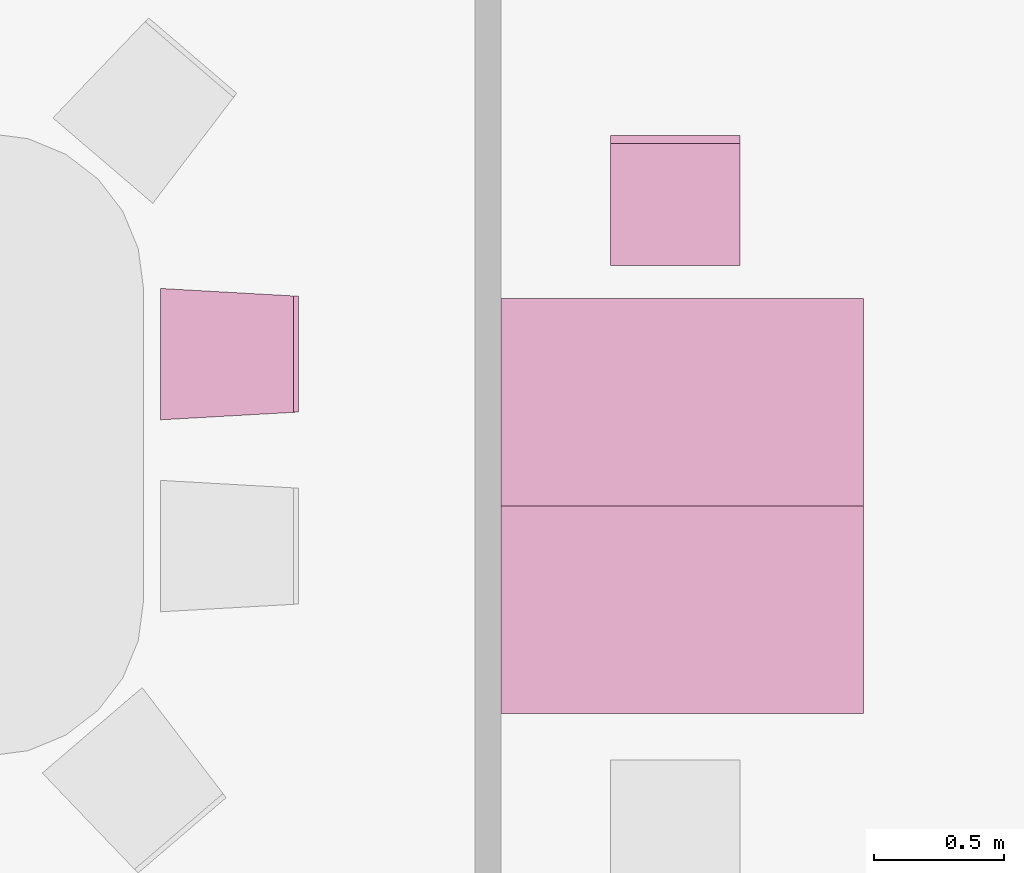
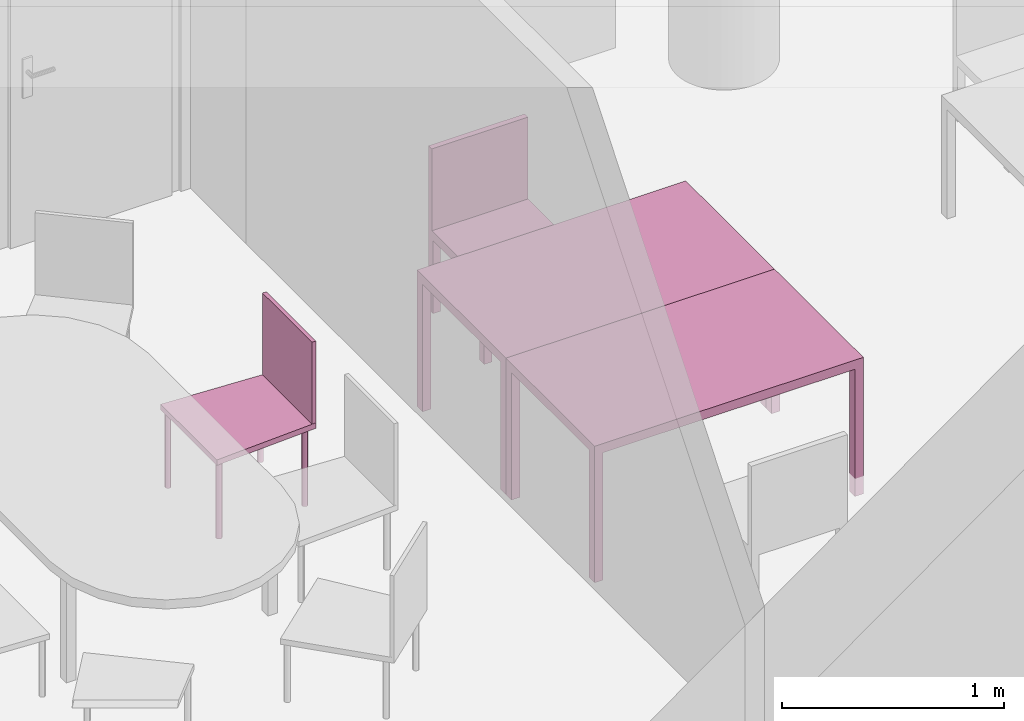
"""IFC4 building model written with IfcOpenShell, lengths in metres."""

from ifc_helpers import new_model, entity, si_unit, converted_unit, derived_unit, frame, origin, place, context, subcontext, project, spatial, faceted_brep, element, save


model = new_model("IFC4")

# Units and contexts
model_context = context("Model", 3, precision=1e-05, world=origin())
body_context = subcontext(model_context, "Body", "Model", "MODEL_VIEW")
ifc_project = project(units=[si_unit("LENGTHUNIT", "METRE"), si_unit("AREAUNIT", "SQUARE_METRE"), si_unit("VOLUMEUNIT", "CUBIC_METRE"), si_unit("MASSUNIT", "GRAM", prefix="KILO"), converted_unit("PLANEANGLEUNIT", "DEGREE", entity("IfcPlaneAngleMeasure", 0.0174532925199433), si_unit("PLANEANGLEUNIT", "RADIAN"), dimensions=[0, 0, 0, 0, 0, 0, 0]), derived_unit("THERMALTRANSMITTANCEUNIT", [(si_unit("POWERUNIT", "WATT"), 1), (si_unit("THERMODYNAMICTEMPERATUREUNIT", "KELVIN"), -1), (si_unit("LENGTHUNIT", "METRE"), -2)]), derived_unit("VOLUMETRICFLOWRATEUNIT", [(si_unit("LENGTHUNIT", "METRE"), 3), (converted_unit("TIMEUNIT", "hour", entity("IfcTimeMeasure", 3600.0), si_unit("TIMEUNIT", "SECOND"), dimensions=[0, 0, 1, 0, 0, 0, 0]), -1), (si_unit("LENGTHUNIT", "METRE"), -1)])], contexts=[model_context])

# Building, storeys
building_placement = place(None, origin())
building = spatial("IfcBuilding", under=ifc_project, at=building_placement, Name="HABITATGE PLURIFAMILIAR", CompositionType="ELEMENT")
storey_1_placement = place(building_placement, frame((0.0, 0.0, 9.26)))
storey_1 = spatial("IfcBuildingStorey", under=building, at=storey_1_placement, Name="PLANTA SEGONA", CompositionType="ELEMENT", Elevation=9.26)
storey_2_placement = place(storey_1_placement, frame((0.0, 0.0, 6.25)))
storey_2 = spatial("IfcBuildingStorey", under=storey_1, at=storey_2_placement, Name="NOU", CompositionType="PARTIAL")

# Furniture
furniture_1_placement = place(storey_2_placement, frame((418.499795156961, 14.6473715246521, -6.3499999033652)))
element("IfcFurniture", 1, at=furniture_1_placement, inside=storey_2, Name="Taula 140X80_P2", context=body_context, shape_type="Brep", body=[
    faceted_brep([(0.04375, 0.750069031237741, 0.0), (0.04375, 0.800069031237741, 0.0), (0.0, 0.800069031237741, 0.0), (0.0, 0.750069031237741, 0.0), (0.04375, 0.800069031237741, 0.7), (0.04375, 0.750069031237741, 0.7), (0.0, 0.750069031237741, 0.7), (0.0, 0.800069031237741, 0.7)], [[[0, 1, 2, 3]], [[4, 5, 6, 7]], [[1, 0, 5, 4]], [[2, 1, 4, 7]], [[3, 2, 7, 6]], [[0, 3, 6, 5]]], orient=[[False], [False], [False], [False], [False], [False]]),
    faceted_brep([(0.04375, 0.0, 0.0), (0.04375, 0.05, 0.0), (0.0, 0.05, 0.0), (0.0, 0.0, 0.0), (0.04375, 0.05, 0.7), (0.04375, 0.0, 0.7), (0.0, 0.0, 0.7), (0.0, 0.05, 0.7)], [[[0, 1, 2, 3]], [[4, 5, 6, 7]], [[1, 0, 5, 4]], [[2, 1, 4, 7]], [[3, 2, 7, 6]], [[0, 3, 6, 5]]], orient=[[False], [False], [False], [False], [False], [False]]),
    faceted_brep([(1.39732768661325, 0.0, 0.7), (1.39732768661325, 0.800069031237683, 0.7), (0.0, 0.800069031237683, 0.7), (0.0, 0.0, 0.7), (1.39732768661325, 0.800069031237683, 0.75), (1.39732768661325, 0.0, 0.75), (0.0, 0.0, 0.75), (0.0, 0.800069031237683, 0.75)], [[[0, 1, 2, 3]], [[4, 5, 6, 7]], [[1, 0, 5, 4]], [[2, 1, 4, 7]], [[3, 2, 7, 6]], [[0, 3, 6, 5]]], orient=[[False], [False], [False], [False], [False], [False]]),
    faceted_brep([(1.39732768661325, 0.750069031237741, 0.0), (1.39732768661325, 0.800069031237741, 0.0), (1.35357768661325, 0.800069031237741, 0.0), (1.35357768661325, 0.750069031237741, 0.0), (1.39732768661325, 0.800069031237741, 0.7), (1.39732768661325, 0.750069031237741, 0.7), (1.35357768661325, 0.750069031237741, 0.7), (1.35357768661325, 0.800069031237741, 0.7)], [[[0, 1, 2, 3]], [[4, 5, 6, 7]], [[1, 0, 5, 4]], [[2, 1, 4, 7]], [[3, 2, 7, 6]], [[0, 3, 6, 5]]], orient=[[False], [False], [False], [False], [False], [False]]),
    faceted_brep([(1.39732768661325, 0.0, 0.0), (1.39732768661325, 0.05, 0.0), (1.35357768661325, 0.05, 0.0), (1.35357768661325, 0.0, 0.0), (1.39732768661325, 0.05, 0.7), (1.39732768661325, 0.0, 0.7), (1.35357768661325, 0.0, 0.7), (1.35357768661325, 0.05, 0.7)], [[[0, 1, 2, 3]], [[4, 5, 6, 7]], [[1, 0, 5, 4]], [[2, 1, 4, 7]], [[3, 2, 7, 6]], [[0, 3, 6, 5]]], orient=[[False], [False], [False], [False], [False], [False]]),
])
furniture_2_placement = place(storey_2_placement, frame((418.499795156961, 15.4474405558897, -6.3499999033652)))
element("IfcFurniture", 2, at=furniture_2_placement, inside=storey_2, Name="Taula 140X80_P2", context=body_context, shape_type="Brep", body=[
    faceted_brep([(0.04375, 0.05, 0.0), (0.0, 0.05, 0.0), (0.0, 0.0, 0.0), (0.04375, 0.0, 0.0), (0.04375, 0.0, 0.7), (0.0, 0.0, 0.7), (0.0, 0.05, 0.7), (0.04375, 0.05, 0.7)], [[[0, 1, 2, 3]], [[4, 5, 6, 7]], [[3, 4, 7, 0]], [[2, 5, 4, 3]], [[1, 6, 5, 2]], [[0, 7, 6, 1]]], orient=[[False], [False], [False], [False], [False], [False]]),
    faceted_brep([(0.04375, 0.800069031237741, 0.0), (0.0, 0.800069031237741, 0.0), (0.0, 0.750069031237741, 0.0), (0.04375, 0.750069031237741, 0.0), (0.04375, 0.750069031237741, 0.7), (0.0, 0.750069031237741, 0.7), (0.0, 0.800069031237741, 0.7), (0.04375, 0.800069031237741, 0.7)], [[[0, 1, 2, 3]], [[4, 5, 6, 7]], [[3, 4, 7, 0]], [[2, 5, 4, 3]], [[1, 6, 5, 2]], [[0, 7, 6, 1]]], orient=[[False], [False], [False], [False], [False], [False]]),
    faceted_brep([(1.39732768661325, 0.800069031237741, 0.7), (0.0, 0.800069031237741, 0.7), (0.0, 0.0, 0.7), (1.39732768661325, 0.0, 0.7), (1.39732768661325, 0.0, 0.75), (0.0, 0.0, 0.75), (0.0, 0.800069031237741, 0.75), (1.39732768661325, 0.800069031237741, 0.75)], [[[0, 1, 2, 3]], [[4, 5, 6, 7]], [[3, 4, 7, 0]], [[2, 5, 4, 3]], [[1, 6, 5, 2]], [[0, 7, 6, 1]]], orient=[[False], [False], [False], [False], [False], [False]]),
    faceted_brep([(1.39732768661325, 0.05, 0.0), (1.35357768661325, 0.05, 0.0), (1.35357768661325, 0.0, 0.0), (1.39732768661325, 0.0, 0.0), (1.39732768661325, 0.0, 0.7), (1.35357768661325, 0.0, 0.7), (1.35357768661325, 0.05, 0.7), (1.39732768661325, 0.05, 0.7)], [[[0, 1, 2, 3]], [[4, 5, 6, 7]], [[3, 4, 7, 0]], [[2, 5, 4, 3]], [[1, 6, 5, 2]], [[0, 7, 6, 1]]], orient=[[False], [False], [False], [False], [False], [False]]),
    faceted_brep([(1.39732768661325, 0.800069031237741, 0.0), (1.35357768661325, 0.800069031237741, 0.0), (1.35357768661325, 0.750069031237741, 0.0), (1.39732768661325, 0.750069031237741, 0.0), (1.39732768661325, 0.750069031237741, 0.7), (1.35357768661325, 0.750069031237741, 0.7), (1.35357768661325, 0.800069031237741, 0.7), (1.39732768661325, 0.800069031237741, 0.7)], [[[0, 1, 2, 3]], [[4, 5, 6, 7]], [[3, 4, 7, 0]], [[2, 5, 4, 3]], [[1, 6, 5, 2]], [[0, 7, 6, 1]]], orient=[[False], [False], [False], [False], [False], [False]]),
])
furniture_3_placement = place(storey_2_placement, frame((418.921781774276, 16.37474427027, -6.34505686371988)))
element("IfcFurniture", 3, at=furniture_3_placement, inside=storey_2, Name="Cadira d'Oficina_P2", context=body_context, shape_type="Brep", body=[
    faceted_brep([(0.5, 0.0, 0.4), (0.5, 0.50000000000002, 0.4), (0.0, 0.500000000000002, 0.4), (0.0, 0.0, 0.4), (0.5, 0.50000000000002, 0.45), (0.5, 0.0, 0.45), (0.0, 0.0, 0.45), (0.0, 0.500000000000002, 0.45)], [[[0, 1, 2, 3]], [[4, 5, 6, 7]], [[1, 0, 5, 4]], [[2, 1, 4, 7]], [[3, 2, 7, 6]], [[0, 3, 6, 5]]], orient=[[False], [False], [False], [False], [False], [False]]),
    faceted_brep([(0.0, 0.460000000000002, 0.0), (0.04, 0.460000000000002, 0.0), (0.04, 0.500000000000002, 0.0), (0.0, 0.500000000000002, 0.0), (0.04, 0.460000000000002, 0.4), (0.0, 0.460000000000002, 0.4), (0.0, 0.500000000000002, 0.4), (0.04, 0.500000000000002, 0.4)], [[[0, 1, 2, 3]], [[4, 5, 6, 7]], [[1, 0, 5, 4]], [[2, 1, 4, 7]], [[3, 2, 7, 6]], [[0, 3, 6, 5]]], orient=[[False], [False], [False], [False], [False], [False]]),
    faceted_brep([(0.0, 0.0, 0.0), (0.04, 0.0, 0.0), (0.04, 0.0400000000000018, 0.0), (0.0, 0.0400000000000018, 0.0), (0.04, 0.0, 0.4), (0.0, 0.0, 0.4), (0.0, 0.0400000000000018, 0.4), (0.04, 0.0400000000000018, 0.4)], [[[0, 1, 2, 3]], [[4, 5, 6, 7]], [[1, 0, 5, 4]], [[2, 1, 4, 7]], [[3, 2, 7, 6]], [[0, 3, 6, 5]]], orient=[[False], [False], [False], [False], [False], [False]]),
    faceted_brep([(0.46, 0.460000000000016, 0.0), (0.5, 0.46000000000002, 0.0), (0.5, 0.50000000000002, 0.0), (0.46, 0.500000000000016, 0.0), (0.5, 0.46000000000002, 0.4), (0.46, 0.460000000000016, 0.4), (0.46, 0.500000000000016, 0.4), (0.5, 0.50000000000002, 0.4)], [[[0, 1, 2, 3]], [[4, 5, 6, 7]], [[1, 0, 5, 4]], [[2, 1, 4, 7]], [[3, 2, 7, 6]], [[0, 3, 6, 5]]], orient=[[False], [False], [False], [False], [False], [False]]),
    faceted_brep([(0.46, 0.0, 0.0), (0.5, 0.0, 0.0), (0.5, 0.04000000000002, 0.0), (0.46, 0.0400000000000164, 0.0), (0.5, 0.0, 0.4), (0.46, 0.0, 0.4), (0.46, 0.0400000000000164, 0.4), (0.5, 0.04000000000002, 0.4)], [[[0, 1, 2, 3]], [[4, 5, 6, 7]], [[1, 0, 5, 4]], [[2, 1, 4, 7]], [[3, 2, 7, 6]], [[0, 3, 6, 5]]], orient=[[False], [False], [False], [False], [False], [False]]),
    faceted_brep([(0.0, 0.470000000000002, 0.45), (0.5, 0.47000000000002, 0.45), (0.5, 0.50000000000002, 0.45), (0.0, 0.500000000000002, 0.45), (0.5, 0.47000000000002, 0.9), (0.0, 0.470000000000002, 0.9), (0.0, 0.500000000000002, 0.9), (0.5, 0.50000000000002, 0.9)], [[[0, 1, 2, 3]], [[4, 5, 6, 7]], [[1, 0, 5, 4]], [[2, 1, 4, 7]], [[3, 2, 7, 6]], [[0, 3, 6, 5]]], orient=[[False], [False], [False], [False], [False], [False]]),
])
furniture_4_placement = place(storey_2_placement, frame((417.187569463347, 15.778830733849, -6.35033802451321)))
element("IfcFurniture", 4, at=furniture_4_placement, inside=storey_2, Name="Cadira confident_P2", context=body_context, shape_type="Brep", body=[
    faceted_brep([(0.0250973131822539, 0.0391638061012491, 0.0), (0.0225033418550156, 0.03893686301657, 0.0), (0.0199881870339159, 0.0382629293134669, 0.0), (0.0176282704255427, 0.0371624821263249, 0.0), (0.0154952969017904, 0.0356689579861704, 0.0), (0.0136540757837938, 0.0338277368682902, 0.0), (0.0121605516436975, 0.0316947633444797, 0.0), (0.0110601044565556, 0.0293348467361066, 0.0), (0.0103861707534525, 0.0268196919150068, 0.0), (0.0101592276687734, 0.0242257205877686, 0.0), (0.0103861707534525, 0.0216317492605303, 0.0), (0.0110601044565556, 0.0191165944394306, 0.0), (0.0121605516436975, 0.0167566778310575, 0.0), (0.0136540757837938, 0.014623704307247, 0.0), (0.0154952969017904, 0.0127824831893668, 0.0), (0.0176282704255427, 0.0112889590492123, 0.0), (0.0199881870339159, 0.0101885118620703, 0.0), (0.0225033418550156, 0.0095145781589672, 0.0), (0.0250973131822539, 0.00928763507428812, 0.0), (0.0276912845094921, 0.0095145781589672, 0.0), (0.0302064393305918, 0.0101885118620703, 0.0), (0.032566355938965, 0.0112889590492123, 0.0), (0.0346993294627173, 0.0127824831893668, 0.0), (0.0365405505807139, 0.014623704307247, 0.0), (0.0380340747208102, 0.0167566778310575, 0.0), (0.0391345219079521, 0.0191165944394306, 0.0), (0.0398084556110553, 0.0216317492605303, 0.0), (0.0400353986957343, 0.0242257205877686, 0.0), (0.0398084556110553, 0.0268196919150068, 0.0), (0.0391345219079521, 0.0293348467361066, 0.0), (0.0380340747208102, 0.0316947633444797, 0.0), (0.0365405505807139, 0.0338277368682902, 0.0), (0.0346993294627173, 0.0356689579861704, 0.0), (0.032566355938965, 0.0371624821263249, 0.0), (0.0302064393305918, 0.0382629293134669, 0.0), (0.0276912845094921, 0.03893686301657, 0.0), (0.0250973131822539, 0.0391638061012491, 0.448281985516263), (0.0276912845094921, 0.03893686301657, 0.448281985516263), (0.0302064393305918, 0.0382629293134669, 0.448281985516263), (0.032566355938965, 0.0371624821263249, 0.448281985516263), (0.0346993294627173, 0.0356689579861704, 0.448281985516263), (0.0365405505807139, 0.0338277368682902, 0.448281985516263), (0.0380340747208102, 0.0316947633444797, 0.448281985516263), (0.0391345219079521, 0.0293348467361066, 0.448281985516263), (0.0398084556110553, 0.0268196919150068, 0.448281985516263), (0.0400353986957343, 0.0242257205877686, 0.448281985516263), (0.0398084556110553, 0.0216317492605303, 0.448281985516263), (0.0391345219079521, 0.0191165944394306, 0.448281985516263), (0.0380340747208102, 0.0167566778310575, 0.448281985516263), (0.0365405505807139, 0.014623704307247, 0.448281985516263), (0.0346993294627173, 0.0127824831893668, 0.448281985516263), (0.032566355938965, 0.0112889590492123, 0.448281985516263), (0.0302064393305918, 0.0101885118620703, 0.448281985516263), (0.0276912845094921, 0.0095145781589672, 0.448281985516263), (0.0250973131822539, 0.00928763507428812, 0.448281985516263), (0.0225033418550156, 0.0095145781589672, 0.448281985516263), (0.0199881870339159, 0.0101885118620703, 0.448281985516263), (0.0176282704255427, 0.0112889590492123, 0.448281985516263), (0.0154952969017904, 0.0127824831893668, 0.448281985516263), (0.0136540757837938, 0.014623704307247, 0.448281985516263), (0.0121605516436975, 0.0167566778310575, 0.448281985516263), (0.0110601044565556, 0.0191165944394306, 0.448281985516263), (0.0103861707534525, 0.0216317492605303, 0.448281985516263), (0.0101592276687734, 0.0242257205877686, 0.448281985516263), (0.0103861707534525, 0.0268196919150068, 0.448281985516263), (0.0110601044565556, 0.0293348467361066, 0.448281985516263), (0.0121605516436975, 0.0316947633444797, 0.448281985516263), (0.0136540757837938, 0.0338277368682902, 0.448281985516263), (0.0154952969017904, 0.0356689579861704, 0.448281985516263), (0.0176282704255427, 0.0371624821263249, 0.448281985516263), (0.0199881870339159, 0.0382629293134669, 0.448281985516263), (0.0225033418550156, 0.03893686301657, 0.448281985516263)], [[[0, 1, 2, 3, 4, 5, 6, 7, 8, 9, 10, 11, 12, 13, 14, 15, 16, 17, 18, 19, 20, 21, 22, 23, 24, 25, 26, 27, 28, 29, 30, 31, 32, 33, 34, 35]], [[36, 37, 38, 39, 40, 41, 42, 43, 44, 45, 46, 47, 48, 49, 50, 51, 52, 53, 54, 55, 56, 57, 58, 59, 60, 61, 62, 63, 64, 65, 66, 67, 68, 69, 70, 71]], [[35, 37, 36, 0]], [[34, 38, 37, 35]], [[33, 39, 38, 34]], [[32, 40, 39, 33]], [[31, 41, 40, 32]], [[30, 42, 41, 31]], [[29, 43, 42, 30]], [[28, 44, 43, 29]], [[27, 45, 44, 28]], [[26, 46, 45, 27]], [[25, 47, 46, 26]], [[24, 48, 47, 25]], [[23, 49, 48, 24]], [[22, 50, 49, 23]], [[21, 51, 50, 22]], [[20, 52, 51, 21]], [[19, 53, 52, 20]], [[18, 54, 53, 19]], [[17, 55, 54, 18]], [[16, 56, 55, 17]], [[15, 57, 56, 16]], [[14, 58, 57, 15]], [[13, 59, 58, 14]], [[12, 60, 59, 13]], [[11, 61, 60, 12]], [[10, 62, 61, 11]], [[9, 63, 62, 10]], [[8, 64, 63, 9]], [[7, 65, 64, 8]], [[6, 66, 65, 7]], [[5, 67, 66, 6]], [[4, 68, 67, 5]], [[3, 69, 68, 4]], [[2, 70, 69, 3]], [[1, 71, 70, 2]], [[0, 36, 71, 1]]], orient=[[False], [False], [False], [False], [False], [False], [False], [False], [False], [False], [False], [False], [False], [False], [False], [False], [False], [False], [False], [False], [False], [False], [False], [False], [False], [False], [False], [False], [False], [False], [False], [False], [False], [False], [False], [False], [False], [False]]),
    faceted_brep([(0.487504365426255, 0.0668018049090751, 0.0), (0.484910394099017, 0.0665748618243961, 0.0), (0.482395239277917, 0.065900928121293, 0.0), (0.480035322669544, 0.064800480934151, 0.0), (0.477902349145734, 0.0633069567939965, 0.0), (0.476061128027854, 0.0614657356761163, 0.0), (0.474567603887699, 0.0593327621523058, 0.0), (0.473467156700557, 0.0569728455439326, 0.0), (0.472793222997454, 0.0544576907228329, 0.0), (0.472566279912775, 0.0518637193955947, 0.0), (0.472793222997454, 0.0492697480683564, 0.0), (0.473467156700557, 0.0467545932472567, 0.0), (0.474567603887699, 0.0443946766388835, 0.0), (0.476061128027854, 0.042261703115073, 0.0), (0.477902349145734, 0.0404204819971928, 0.0), (0.480035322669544, 0.0389269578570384, 0.0), (0.482395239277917, 0.0378265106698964, 0.0), (0.484910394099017, 0.0371525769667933, 0.0), (0.487504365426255, 0.0369256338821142, 0.0), (0.490098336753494, 0.0371525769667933, 0.0), (0.492613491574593, 0.0378265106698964, 0.0), (0.494973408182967, 0.0389269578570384, 0.0), (0.497106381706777, 0.0404204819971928, 0.0), (0.498947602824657, 0.042261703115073, 0.0), (0.500441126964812, 0.0443946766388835, 0.0), (0.501541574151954, 0.0467545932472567, 0.0), (0.502215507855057, 0.0492697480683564, 0.0), (0.502442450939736, 0.0518637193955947, 0.0), (0.502215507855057, 0.0544576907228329, 0.0), (0.501541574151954, 0.0569728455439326, 0.0), (0.500441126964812, 0.0593327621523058, 0.0), (0.498947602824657, 0.0614657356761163, 0.0), (0.497106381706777, 0.0633069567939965, 0.0), (0.494973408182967, 0.064800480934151, 0.0), (0.492613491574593, 0.065900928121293, 0.0), (0.490098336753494, 0.0665748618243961, 0.0), (0.487504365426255, 0.0668018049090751, 0.448281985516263), (0.490098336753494, 0.0665748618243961, 0.448281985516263), (0.492613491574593, 0.065900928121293, 0.448281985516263), (0.494973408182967, 0.064800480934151, 0.448281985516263), (0.497106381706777, 0.0633069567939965, 0.448281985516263), (0.498947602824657, 0.0614657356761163, 0.448281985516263), (0.500441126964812, 0.0593327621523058, 0.448281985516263), (0.501541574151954, 0.0569728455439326, 0.448281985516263), (0.502215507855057, 0.0544576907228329, 0.448281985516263), (0.502442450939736, 0.0518637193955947, 0.448281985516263), (0.502215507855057, 0.0492697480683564, 0.448281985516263), (0.501541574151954, 0.0467545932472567, 0.448281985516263), (0.500441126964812, 0.0443946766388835, 0.448281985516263), (0.498947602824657, 0.042261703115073, 0.448281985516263), (0.497106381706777, 0.0404204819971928, 0.448281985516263), (0.494973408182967, 0.0389269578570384, 0.448281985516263), (0.492613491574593, 0.0378265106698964, 0.448281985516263), (0.490098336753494, 0.0371525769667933, 0.448281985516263), (0.487504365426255, 0.0369256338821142, 0.448281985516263), (0.484910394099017, 0.0371525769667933, 0.448281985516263), (0.482395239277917, 0.0378265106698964, 0.448281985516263), (0.480035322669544, 0.0389269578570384, 0.448281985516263), (0.477902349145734, 0.0404204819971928, 0.448281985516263), (0.476061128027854, 0.042261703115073, 0.448281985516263), (0.474567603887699, 0.0443946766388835, 0.448281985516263), (0.473467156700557, 0.0467545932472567, 0.448281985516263), (0.472793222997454, 0.0492697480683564, 0.448281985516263), (0.472566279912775, 0.0518637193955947, 0.448281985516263), (0.472793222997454, 0.0544576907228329, 0.448281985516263), (0.473467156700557, 0.0569728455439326, 0.448281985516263), (0.474567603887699, 0.0593327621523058, 0.448281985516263), (0.476061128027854, 0.0614657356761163, 0.448281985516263), (0.477902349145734, 0.0633069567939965, 0.448281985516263), (0.480035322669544, 0.064800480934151, 0.448281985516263), (0.482395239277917, 0.065900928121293, 0.448281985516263), (0.484910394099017, 0.0665748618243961, 0.448281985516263)], [[[0, 1, 2, 3, 4, 5, 6, 7, 8, 9, 10, 11, 12, 13, 14, 15, 16, 17, 18, 19, 20, 21, 22, 23, 24, 25, 26, 27, 28, 29, 30, 31, 32, 33, 34, 35]], [[36, 37, 38, 39, 40, 41, 42, 43, 44, 45, 46, 47, 48, 49, 50, 51, 52, 53, 54, 55, 56, 57, 58, 59, 60, 61, 62, 63, 64, 65, 66, 67, 68, 69, 70, 71]], [[35, 37, 36, 0]], [[34, 38, 37, 35]], [[33, 39, 38, 34]], [[32, 40, 39, 33]], [[31, 41, 40, 32]], [[30, 42, 41, 31]], [[29, 43, 42, 30]], [[28, 44, 43, 29]], [[27, 45, 44, 28]], [[26, 46, 45, 27]], [[25, 47, 46, 26]], [[24, 48, 47, 25]], [[23, 49, 48, 24]], [[22, 50, 49, 23]], [[21, 51, 50, 22]], [[20, 52, 51, 21]], [[19, 53, 52, 20]], [[18, 54, 53, 19]], [[17, 55, 54, 18]], [[16, 56, 55, 17]], [[15, 57, 56, 16]], [[14, 58, 57, 15]], [[13, 59, 58, 14]], [[12, 60, 59, 13]], [[11, 61, 60, 12]], [[10, 62, 61, 11]], [[9, 63, 62, 10]], [[8, 64, 63, 9]], [[7, 65, 64, 8]], [[6, 66, 65, 7]], [[5, 67, 66, 6]], [[4, 68, 67, 5]], [[3, 69, 68, 4]], [[2, 70, 69, 3]], [[1, 71, 70, 2]], [[0, 36, 71, 1]]], orient=[[False], [False], [False], [False], [False], [False], [False], [False], [False], [False], [False], [False], [False], [False], [False], [False], [False], [False], [False], [False], [False], [False], [False], [False], [False], [False], [False], [False], [False], [False], [False], [False], [False], [False], [False], [False], [False], [False]]),
    faceted_brep([(0.0250973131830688, 0.499163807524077, 0.0), (0.0225033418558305, 0.498936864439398, 0.0), (0.0199881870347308, 0.498262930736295, 0.0), (0.0176282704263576, 0.497162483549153, 0.0), (0.0154952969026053, 0.495668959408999, 0.0), (0.0136540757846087, 0.493827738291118, 0.0), (0.0121605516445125, 0.491694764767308, 0.0), (0.0110601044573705, 0.489334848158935, 0.0), (0.0103861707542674, 0.486819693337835, 0.0), (0.0101592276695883, 0.484225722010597, 0.0), (0.0103861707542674, 0.481631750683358, 0.0), (0.0110601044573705, 0.479116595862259, 0.0), (0.0121605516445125, 0.476756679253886, 0.0), (0.0136540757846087, 0.474623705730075, 0.0), (0.0154952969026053, 0.472782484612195, 0.0), (0.0176282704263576, 0.47128896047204, 0.0), (0.0199881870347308, 0.470188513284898, 0.0), (0.0225033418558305, 0.469514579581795, 0.0), (0.0250973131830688, 0.469287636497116, 0.0), (0.027691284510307, 0.469514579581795, 0.0), (0.0302064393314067, 0.470188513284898, 0.0), (0.0325663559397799, 0.47128896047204, 0.0), (0.0346993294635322, 0.472782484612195, 0.0), (0.0365405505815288, 0.474623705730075, 0.0), (0.0380340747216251, 0.476756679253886, 0.0), (0.0391345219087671, 0.479116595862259, 0.0), (0.0398084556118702, 0.481631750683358, 0.0), (0.0400353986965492, 0.484225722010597, 0.0), (0.0398084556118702, 0.486819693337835, 0.0), (0.0391345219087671, 0.489334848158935, 0.0), (0.0380340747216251, 0.491694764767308, 0.0), (0.0365405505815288, 0.493827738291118, 0.0), (0.0346993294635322, 0.495668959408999, 0.0), (0.0325663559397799, 0.497162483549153, 0.0), (0.0302064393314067, 0.498262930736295, 0.0), (0.027691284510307, 0.498936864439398, 0.0), (0.0250973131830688, 0.499163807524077, 0.448281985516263), (0.027691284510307, 0.498936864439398, 0.448281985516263), (0.0302064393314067, 0.498262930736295, 0.448281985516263), (0.0325663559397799, 0.497162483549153, 0.448281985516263), (0.0346993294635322, 0.495668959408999, 0.448281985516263), (0.0365405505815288, 0.493827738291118, 0.448281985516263), (0.0380340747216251, 0.491694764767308, 0.448281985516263), (0.0391345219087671, 0.489334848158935, 0.448281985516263), (0.0398084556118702, 0.486819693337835, 0.448281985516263), (0.0400353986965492, 0.484225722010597, 0.448281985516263), (0.0398084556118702, 0.481631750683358, 0.448281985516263), (0.0391345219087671, 0.479116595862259, 0.448281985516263), (0.0380340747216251, 0.476756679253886, 0.448281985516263), (0.0365405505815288, 0.474623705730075, 0.448281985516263), (0.0346993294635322, 0.472782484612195, 0.448281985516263), (0.0325663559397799, 0.47128896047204, 0.448281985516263), (0.0302064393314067, 0.470188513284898, 0.448281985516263), (0.027691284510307, 0.469514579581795, 0.448281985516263), (0.0250973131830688, 0.469287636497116, 0.448281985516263), (0.0225033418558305, 0.469514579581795, 0.448281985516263), (0.0199881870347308, 0.470188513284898, 0.448281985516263), (0.0176282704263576, 0.47128896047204, 0.448281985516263), (0.0154952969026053, 0.472782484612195, 0.448281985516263), (0.0136540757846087, 0.474623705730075, 0.448281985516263), (0.0121605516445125, 0.476756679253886, 0.448281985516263), (0.0110601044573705, 0.479116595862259, 0.448281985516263), (0.0103861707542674, 0.481631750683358, 0.448281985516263), (0.0101592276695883, 0.484225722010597, 0.448281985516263), (0.0103861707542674, 0.486819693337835, 0.448281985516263), (0.0110601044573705, 0.489334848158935, 0.448281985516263), (0.0121605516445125, 0.491694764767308, 0.448281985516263), (0.0136540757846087, 0.493827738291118, 0.448281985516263), (0.0154952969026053, 0.495668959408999, 0.448281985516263), (0.0176282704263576, 0.497162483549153, 0.448281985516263), (0.0199881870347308, 0.498262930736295, 0.448281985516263), (0.0225033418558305, 0.498936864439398, 0.448281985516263)], [[[0, 1, 2, 3, 4, 5, 6, 7, 8, 9, 10, 11, 12, 13, 14, 15, 16, 17, 18, 19, 20, 21, 22, 23, 24, 25, 26, 27, 28, 29, 30, 31, 32, 33, 34, 35]], [[36, 37, 38, 39, 40, 41, 42, 43, 44, 45, 46, 47, 48, 49, 50, 51, 52, 53, 54, 55, 56, 57, 58, 59, 60, 61, 62, 63, 64, 65, 66, 67, 68, 69, 70, 71]], [[35, 37, 36, 0]], [[34, 38, 37, 35]], [[33, 39, 38, 34]], [[32, 40, 39, 33]], [[31, 41, 40, 32]], [[30, 42, 41, 31]], [[29, 43, 42, 30]], [[28, 44, 43, 29]], [[27, 45, 44, 28]], [[26, 46, 45, 27]], [[25, 47, 46, 26]], [[24, 48, 47, 25]], [[23, 49, 48, 24]], [[22, 50, 49, 23]], [[21, 51, 50, 22]], [[20, 52, 51, 21]], [[19, 53, 52, 20]], [[18, 54, 53, 19]], [[17, 55, 54, 18]], [[16, 56, 55, 17]], [[15, 57, 56, 16]], [[14, 58, 57, 15]], [[13, 59, 58, 14]], [[12, 60, 59, 13]], [[11, 61, 60, 12]], [[10, 62, 61, 11]], [[9, 63, 62, 10]], [[8, 64, 63, 9]], [[7, 65, 64, 8]], [[6, 66, 65, 7]], [[5, 67, 66, 6]], [[4, 68, 67, 5]], [[3, 69, 68, 4]], [[2, 70, 69, 3]], [[1, 71, 70, 2]], [[0, 36, 71, 1]]], orient=[[False], [False], [False], [False], [False], [False], [False], [False], [False], [False], [False], [False], [False], [False], [False], [False], [False], [False], [False], [False], [False], [False], [False], [False], [False], [False], [False], [False], [False], [False], [False], [False], [False], [False], [False], [False], [False], [False]]),
    faceted_brep([(0.487504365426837, 0.466801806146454, 0.0), (0.484910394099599, 0.466574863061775, 0.0), (0.482395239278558, 0.465900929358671, 0.0), (0.480035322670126, 0.464800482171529, 0.0), (0.477902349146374, 0.463306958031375, 0.0), (0.476061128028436, 0.461465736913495, 0.0), (0.474567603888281, 0.459332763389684, 0.0), (0.473467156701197, 0.456972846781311, 0.0), (0.472793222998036, 0.454457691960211, 0.0), (0.472566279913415, 0.451863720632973, 0.0), (0.472793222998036, 0.449269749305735, 0.0), (0.473467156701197, 0.446754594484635, 0.0), (0.474567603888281, 0.444394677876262, 0.0), (0.476061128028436, 0.442261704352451, 0.0), (0.477902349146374, 0.440420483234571, 0.0), (0.480035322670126, 0.438926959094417, 0.0), (0.482395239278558, 0.437826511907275, 0.0), (0.484910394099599, 0.437152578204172, 0.0), (0.487504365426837, 0.436925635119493, 0.0), (0.490098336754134, 0.437152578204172, 0.0), (0.492613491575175, 0.437826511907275, 0.0), (0.494973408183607, 0.438926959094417, 0.0), (0.497106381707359, 0.440420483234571, 0.0), (0.498947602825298, 0.442261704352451, 0.0), (0.500441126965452, 0.444394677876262, 0.0), (0.501541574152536, 0.446754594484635, 0.0), (0.502215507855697, 0.449269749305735, 0.0), (0.502442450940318, 0.451863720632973, 0.0), (0.502215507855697, 0.454457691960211, 0.0), (0.501541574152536, 0.456972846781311, 0.0), (0.500441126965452, 0.459332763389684, 0.0), (0.498947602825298, 0.461465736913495, 0.0), (0.497106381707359, 0.463306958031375, 0.0), (0.494973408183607, 0.464800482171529, 0.0), (0.492613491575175, 0.465900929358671, 0.0), (0.490098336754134, 0.466574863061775, 0.0), (0.487504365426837, 0.466801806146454, 0.448281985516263), (0.490098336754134, 0.466574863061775, 0.448281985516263), (0.492613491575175, 0.465900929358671, 0.448281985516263), (0.494973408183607, 0.464800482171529, 0.448281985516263), (0.497106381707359, 0.463306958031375, 0.448281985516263), (0.498947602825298, 0.461465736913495, 0.448281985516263), (0.500441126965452, 0.459332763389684, 0.448281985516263), (0.501541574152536, 0.456972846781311, 0.448281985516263), (0.502215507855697, 0.454457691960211, 0.448281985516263), (0.502442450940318, 0.451863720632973, 0.448281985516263), (0.502215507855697, 0.449269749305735, 0.448281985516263), (0.501541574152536, 0.446754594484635, 0.448281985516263), (0.500441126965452, 0.444394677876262, 0.448281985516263), (0.498947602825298, 0.442261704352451, 0.448281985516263), (0.497106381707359, 0.440420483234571, 0.448281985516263), (0.494973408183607, 0.438926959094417, 0.448281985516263), (0.492613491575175, 0.437826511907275, 0.448281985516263), (0.490098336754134, 0.437152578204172, 0.448281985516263), (0.487504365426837, 0.436925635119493, 0.448281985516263), (0.484910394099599, 0.437152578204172, 0.448281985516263), (0.482395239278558, 0.437826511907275, 0.448281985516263), (0.480035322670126, 0.438926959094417, 0.448281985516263), (0.477902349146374, 0.440420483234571, 0.448281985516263), (0.476061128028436, 0.442261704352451, 0.448281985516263), (0.474567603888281, 0.444394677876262, 0.448281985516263), (0.473467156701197, 0.446754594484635, 0.448281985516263), (0.472793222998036, 0.449269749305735, 0.448281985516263), (0.472566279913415, 0.451863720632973, 0.448281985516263), (0.472793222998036, 0.454457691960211, 0.448281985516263), (0.473467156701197, 0.456972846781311, 0.448281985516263), (0.474567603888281, 0.459332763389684, 0.448281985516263), (0.476061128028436, 0.461465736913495, 0.448281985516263), (0.477902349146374, 0.463306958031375, 0.448281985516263), (0.480035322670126, 0.464800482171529, 0.448281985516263), (0.482395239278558, 0.465900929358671, 0.448281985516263), (0.484910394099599, 0.466574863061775, 0.448281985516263)], [[[0, 1, 2, 3, 4, 5, 6, 7, 8, 9, 10, 11, 12, 13, 14, 15, 16, 17, 18, 19, 20, 21, 22, 23, 24, 25, 26, 27, 28, 29, 30, 31, 32, 33, 34, 35]], [[36, 37, 38, 39, 40, 41, 42, 43, 44, 45, 46, 47, 48, 49, 50, 51, 52, 53, 54, 55, 56, 57, 58, 59, 60, 61, 62, 63, 64, 65, 66, 67, 68, 69, 70, 71]], [[35, 37, 36, 0]], [[34, 38, 37, 35]], [[33, 39, 38, 34]], [[32, 40, 39, 33]], [[31, 41, 40, 32]], [[30, 42, 41, 31]], [[29, 43, 42, 30]], [[28, 44, 43, 29]], [[27, 45, 44, 28]], [[26, 46, 45, 27]], [[25, 47, 46, 26]], [[24, 48, 47, 25]], [[23, 49, 48, 24]], [[22, 50, 49, 23]], [[21, 51, 50, 22]], [[20, 52, 51, 21]], [[19, 53, 52, 20]], [[18, 54, 53, 19]], [[17, 55, 54, 18]], [[16, 56, 55, 17]], [[15, 57, 56, 16]], [[14, 58, 57, 15]], [[13, 59, 58, 14]], [[12, 60, 59, 13]], [[11, 61, 60, 12]], [[10, 62, 61, 11]], [[9, 63, 62, 10]], [[8, 64, 63, 9]], [[7, 65, 64, 8]], [[6, 66, 65, 7]], [[5, 67, 66, 6]], [[4, 68, 67, 5]], [[3, 69, 68, 4]], [[2, 70, 69, 3]], [[1, 71, 70, 2]], [[0, 36, 71, 1]]], orient=[[False], [False], [False], [False], [False], [False], [False], [False], [False], [False], [False], [False], [False], [False], [False], [False], [False], [False], [False], [False], [False], [False], [False], [False], [False], [False], [False], [False], [False], [False], [False], [False], [False], [False], [False], [False], [False], [False]]),
    faceted_brep([(0.53260781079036, 0.476514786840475, 0.418281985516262), (0.0, 0.506514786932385, 0.418281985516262), (0.0, 0.0, 0.418281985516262), (0.532607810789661, 0.0300000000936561, 0.418281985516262), (0.0, 0.506514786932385, 0.448281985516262), (0.53260781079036, 0.476514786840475, 0.448281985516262), (0.532607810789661, 0.0300000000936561, 0.448281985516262), (0.0, 0.0, 0.448281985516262)], [[[0, 1, 2, 3]], [[4, 5, 6, 7]], [[1, 0, 5, 4]], [[2, 1, 4, 7]], [[3, 2, 7, 6]], [[0, 3, 6, 5]]], orient=[[False], [False], [False], [False], [False], [False]]),
    faceted_brep([(0.512607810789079, 0.476514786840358, 0.448281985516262), (0.51260781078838, 0.0300000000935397, 0.448281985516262), (0.532607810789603, 0.0300000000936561, 0.448281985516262), (0.53260781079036, 0.476514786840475, 0.448281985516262), (0.51260781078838, 0.0300000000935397, 0.89828198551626), (0.512607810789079, 0.476514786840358, 0.89828198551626), (0.53260781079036, 0.476514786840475, 0.89828198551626), (0.532607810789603, 0.0300000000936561, 0.89828198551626)], [[[0, 1, 2, 3]], [[4, 5, 6, 7]], [[1, 0, 5, 4]], [[2, 1, 4, 7]], [[3, 2, 7, 6]], [[0, 3, 6, 5]]], orient=[[False], [False], [False], [False], [False], [False]]),
])

save(model, "model.ifc")
